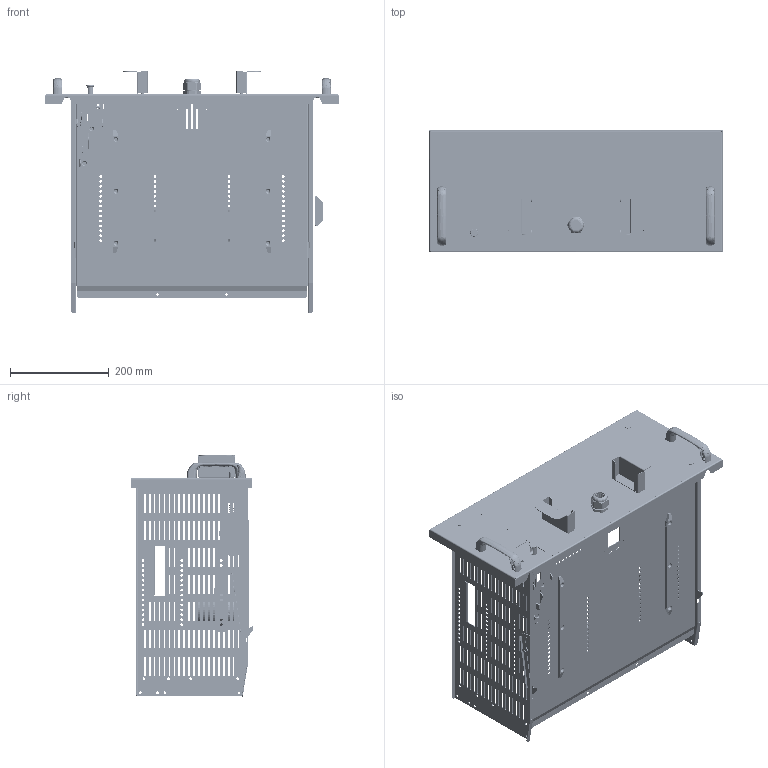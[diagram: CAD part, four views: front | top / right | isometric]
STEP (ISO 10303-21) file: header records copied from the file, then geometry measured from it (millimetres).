
FILE_DESCRIPTION(('CAx-IF Rec.Pracs.---Model Styling and Organization---1.2---2011-12-15','CAx-IF Rec.Pracs.---Geometric and Assembly Validation Properties---4.1---2014-06-16','CAx-IF Rec.Pracs.---PMI Polyline Presentation---2.0---2013-05-24'),'2;1');
FILE_NAME('R5M2W5M1BEPC.stp','2021-05-05T12:27:25+03:00',(''),(''),'STEP Interface 4.4 by CT CoreTechnologie','3D_Evolution4.4 by CT CoreTechnologie','');
FILE_SCHEMA(('AUTOMOTIVE_DESIGN { 1 0 10303 214 1 1 1 1 }'));
Length unit declared in the file: millimetre
Products named in the file (59): R5M2W5M1BEPC; RB.1770.00.00.0; Insulator ISBK_ISBK9988; RB.1775.00.00.0 ÑÁ_-02; Ì5-GOST 5915-70 (DIN 934)_straight; 6-GOST 11371-78 (DIN 125) PA 6.6_6-GOST 11371-78 (DIN 125) PA 6.6; M6x12 (A1100001)_stright; M5x16 GOST 17475-80 (DIN 965)_straight; RB.1356.00.00.0; M5x8-DIN7500C_stright; Cable clamp PG 21; RB.1775.00.01.0_-02; RB.1775.00.02.0_-00; RB.1775.01.00.0 ÑÁ; M5x12-DIN 7500M ISR_stright; RB.1505.00.05.0_-00; Ì4-GOST R 50273-92 (DIN 985)_stright DIN EN ISO 10511 - M4 - N; RB.1505.00.01.0; RB.1503.00.00.0 ÑÁ; RB.1503.00.01.0_-00; RB.1503.00.03.0_123; RB.1503.00.04.0_123; RB.1503.00.05.0_123; RB.1503.00.06.0_-00; RB.1503.00.07.0_-00; RB.1503.00.08.0_'­ ª«¥¥­­ ï'; RB.1500.00.00.1 ÑÁ_-00 (ëª«); M4x25 GOST 17473-80 (DIN 7985)_stright; RB.1500.00.03.0; RB.1500.00.04.1_-00; RB.1500.00.05.1; RB.1500.00.06.0; RB.1500.00.07.0; RB.1500.00.08.1; M6-DIN 985 (ISO 10511) (CM250600)_stright; RB.1500.00.10.0_In prestressed condition - 30 mm; RB.1505.00.02.0; RB.1501.00.00.0 ÑÁ_-02; RB.1501.00.01.0_-02; M6 art.MGR-MKO-0625_2¬¬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
Assembly tree (101 placements, depth 5):
  R5M2W5M1BEPC
    RB.1770.00.00.0
    Insulator ISBK_ISBK9988  x2
    RB.1775.00.00.0 ÑÁ_-02
      Ì5-GOST 5915-70 (DIN 934)_straight  x4
      6-GOST 11371-78 (DIN 125) PA 6.6_6-GOST 11371-78 (DIN 125) PA 6.6  x4
      M6x12 (A1100001)_stright  x4
      M5x16 GOST 17475-80 (DIN 965)_straight  x4
      RB.1356.00.00.0
      M5x8-DIN7500C_stright  x14
      Cable clamp PG 21
      RB.1775.00.01.0_-02
      RB.1775.00.02.0_-00  x2
      RB.1775.01.00.0 ÑÁ
        M5x12-DIN 7500M ISR_stright  x7
        RB.1505.00.05.0_-00
        Ì4-GOST R 50273-92 (DIN 985)_stright DIN EN ISO 10511 - M4 - N
        RB.1505.00.01.0
        RB.1503.00.00.0 ÑÁ
          RB.1503.00.01.0_-00
          RB.1503.00.03.0_123
          RB.1503.00.04.0_123
          RB.1503.00.05.0_123
          RB.1503.00.06.0_-00
          RB.1503.00.07.0_-00
        RB.1500.00.00.1 ÑÁ_-00 (ëª«)
          Ì4-GOST R 50273-92 (DIN 985)_stright DIN EN ISO 10511 - M4 - N
          M4x25 GOST 17473-80 (DIN 7985)_stright
          RB.1500.00.03.0
          RB.1500.00.04.1_-00
          RB.1500.00.05.1
          RB.1500.00.06.0
          RB.1500.00.07.0
          RB.1500.00.08.1
          M6-DIN 985 (ISO 10511) (CM250600)_stright
          RB.1500.00.10.0_In prestressed condition - 30 mm
        RB.1505.00.02.0  x2
      RB.1501.00.00.0 ÑÁ_-02
        RB.1501.00.01.0_-02
        M6 art.MGR-MKO-0625_2¬¬  x2
        RB.1499.00.04.0_-01
      RB.1775.02.00.0 ÑÁ_-02
        RB.1499.00.01.0_-02
        M6 art.MGR-MKO-0625_2¬¬  x2
        RB.1499.00.04.0_-00
        RB.1775.02.01.0
        M5-DIN 985 (ISO 10511)._stright  x2
      6-DIN 6798A (CM220600)_DIN 6798-A6.4  x4
      RB.1775.03.00.0 ÑÁ_-02
        RB.1775.03.01.0_-02
        PF 7x14 RAMmcc 2.0_51
        AC00C061_AC00C061
        Ì6õ12-A5100231_straight
        PF 3.5x7 RAMmcc 2.0_00
      4.444.001  x2
        PR.DT477.100.02
        PR.DT477.100.01
    RB.1768.00.00.0
    CNTD CMV103D_-00
      20504_01
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Bounding box: 594 x 248.93 x 488.84 mm (x, y, z)
Surface area: 1749143.1 mm2 (no closed solid volume)
Topology: 0 solids, 124 shells, 5934 faces, 15506 edges, 9703 vertices
Faces by surface type: plane 2967, bspline 1653, cylinder 1314
Full cylindrical faces by diameter (mm): 3.2 x2
Entity records: 170680 total; most frequent: CARTESIAN_POINT 55775, ORIENTED_EDGE 23628, DIRECTION 22255, EDGE_CURVE 11838, VECTOR 8019, LINE 8019, VERTEX_POINT 7563, AXIS2_PLACEMENT_3D 7118
